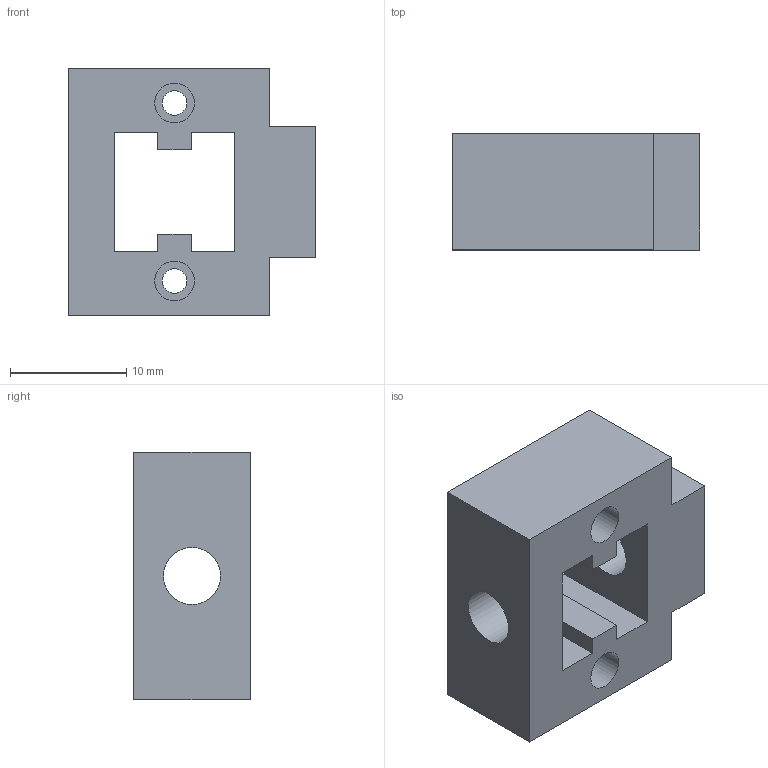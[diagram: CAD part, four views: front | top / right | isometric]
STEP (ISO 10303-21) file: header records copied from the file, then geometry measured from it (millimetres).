
FILE_DESCRIPTION(/* description */ (''),/* implementation_level */ '2;1');
FILE_NAME(/* name */ 'c:\worker\convert-fusion-r07\tmp\job-1\18\output\files\a099a398-49d8-4b09-a0c6-873b2127bcda\53b613ef-ef06-4dac-866b-729022d41b74.stp',/* time_stamp */ '2021-10-12T20:01:44+00:00',/* author */ (''),/* organization */ (''),/* preprocessor_version */ 'ST-DEVELOPER v18.1',/* originating_system */ 'Autodesk Translation Framework v10.10.0.1391',/* authorisation */ '');
FILE_SCHEMA (('AUTOMOTIVE_DESIGN { 1 0 10303 214 3 1 1 }'));
Length unit declared in the file: millimetre
Products named in the file (1): Gripper 1010 Carriage
Bounding box: 21.3 x 10 x 21.3 mm (x, y, z)
Volume: 2841.4 mm3; surface area: 2201.3 mm2
Topology: 1 solids, 1 shells, 30 faces, 78 edges, 52 vertices
Faces by surface type: plane 24, cylinder 6
Full cylindrical faces by diameter (mm): 2.1 x2, 3.4 x2, 4.9 x2
Entity records: 974 total; most frequent: CARTESIAN_POINT 161, ORIENTED_EDGE 156, DIRECTION 152, EDGE_CURVE 78, LINE 66, VECTOR 66, VERTEX_POINT 52, AXIS2_PLACEMENT_3D 43
